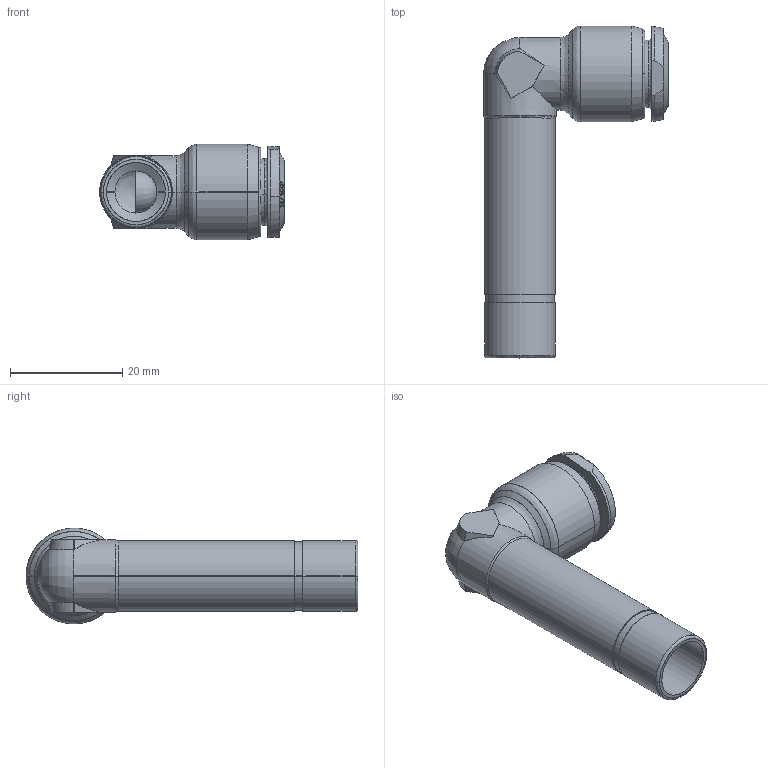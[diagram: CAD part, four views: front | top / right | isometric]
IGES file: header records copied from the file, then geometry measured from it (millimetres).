
Start section: SolidWorks IGES file using analytic representation for surfaces
Global section: file name: K:\Disegni Esecutivi\ALPHA TECHNOLOGIES\85000\Assiemi-85000\85150\IGES\8515000010.IGS; native system: SolidWorks 2016; preprocessor: SolidWorks 2016; author: cad06; date: 191009.082501; units: millimetre
Bounding box: 33 x 59.25 x 17.1 mm (x, y, z)
Surface area: 6058.2 mm2 (no closed solid volume)
Topology: 0 solids, 0 shells, 149 faces, 1599 edges, 1597 vertices
Faces by surface type: bspline 92, revolution 57
